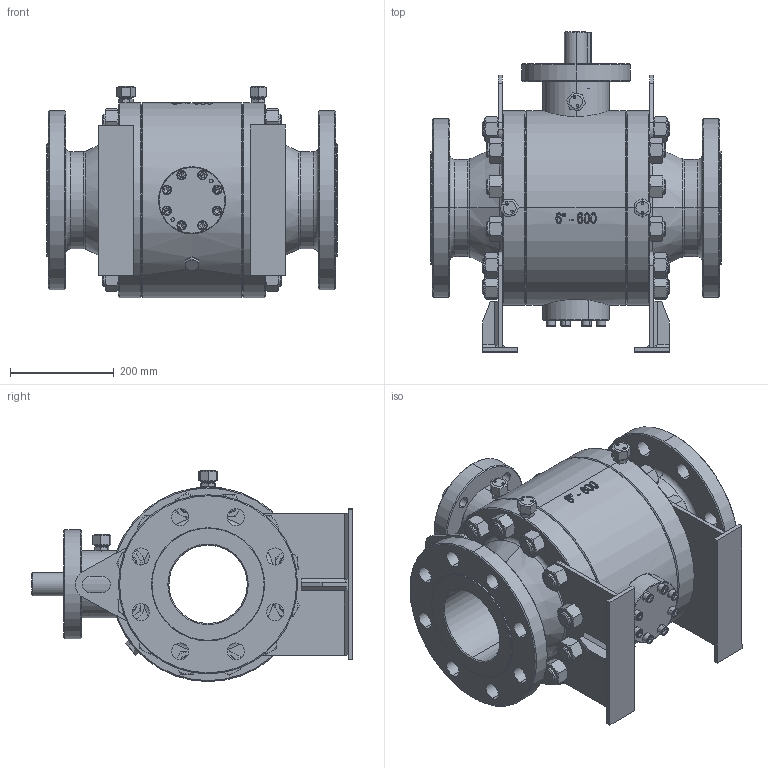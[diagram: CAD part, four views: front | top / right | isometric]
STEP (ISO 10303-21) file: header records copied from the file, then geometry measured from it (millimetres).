
FILE_DESCRIPTION (( 'STEP AP203' ), '1' );
FILE_NAME ('Fig.6060 DN-150 PN-63.STEP', '2017-04-19T16:10:47', ( 'admin' ), ( 'Hewlett-Packard Company' ), 'SwSTEP 2.0', 'SolidWorks 2016', '' );
FILE_SCHEMA (( 'CONFIG_CONTROL_DESIGN' ));
Length unit declared in the file: millimetre
Products named in the file (24): DIN 912 M12 x 65 _ 36_DIN 912 M12x1.5 x 65 --- 36N; 6060TB150E; DIN 912 M12 x 110 _ 36_DIN 912 M12x1.5 x 65 --- 36N; SUN1181184242; 141477CH; DIN 6325 - 12 x 55; SUN1181264250; 6060TB150PP; DIN 912 M4 x 16_EN ISO 4762 M4 x 16 - 16N; UN 1.1_8-8_HHNUT 0.8750-9-D-C; 6060TB150FSFF; 6060TB150L63; Tapón purga 0,75 NPT; 6060TB150FI; Fig.6060 DN-150 PN-63; Engrasador 3_8 NPT-2; 6060TB150B; 6060TB150C; Engrasador 3_8 NPT-1; 6060TB150EG; 6060TB150BA_Predeterminado<Como mecanizada>; Engrasador 3_8 NPT; 6060TB150SA; 6060TB150ARG
Assembly tree (86 placements, depth 3):
  Fig.6060 DN-150 PN-63
    6060TB150C
    6060TB150BA_Predeterminado<Como mecanizada>  x2
    6060TB150ARG  x2
    6060TB150E
    141477CH
    6060TB150PP
    6060TB150FSFF
    6060TB150FI
    6060TB150B
    6060TB150EG
    6060TB150SA  x2
    SUN1181184242  x12
    SUN1181264250  x12
    UN 1.1_8-8_HHNUT 0.8750-9-D-C  x24
    Tapón purga 0,75 NPT  x2
    Engrasador 3_8 NPT  x3
      Engrasador 3_8 NPT-2
      Engrasador 3_8 NPT-1
    DIN 912 M12 x 65 _ 36_DIN 912 M12x1.5 x 65 --- 36N  x8
    DIN 912 M12 x 110 _ 36_DIN 912 M12x1.5 x 65 --- 36N  x4
    DIN 6325 - 12 x 55  x2
    DIN 912 M4 x 16_EN ISO 4762 M4 x 16 - 16N
    6060TB150L63  x2
Bounding box: 559 x 617.15 x 407 mm (x, y, z)
Volume: 36923477.5 mm3; surface area: 3678325.7 mm2
Topology: 99 solids, 99 shells, 2676 faces, 5956 edges, 3537 vertices
Faces by surface type: cylinder 832, cone 823, plane 820, torus 151, bspline 48, sphere 2
Entity records: 43641 total; most frequent: CARTESIAN_POINT 11137, DIRECTION 6368, ORIENTED_EDGE 5432, EDGE_CURVE 2716, AXIS2_PLACEMENT_3D 2619, VERTEX_POINT 1691, EDGE_LOOP 1521, CIRCLE 1354
